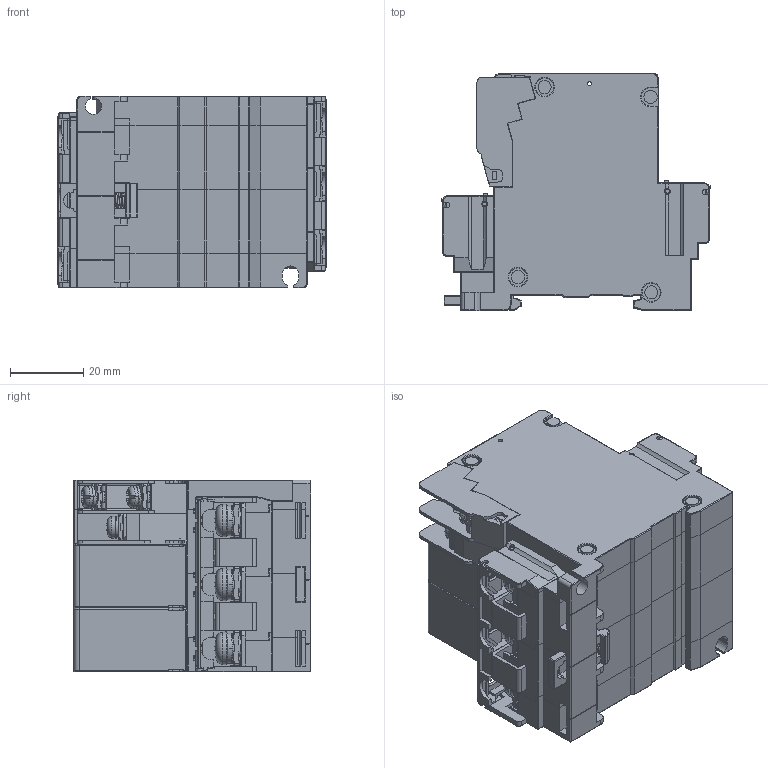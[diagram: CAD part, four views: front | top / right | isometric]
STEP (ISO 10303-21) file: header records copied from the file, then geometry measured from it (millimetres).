
FILE_DESCRIPTION (( 'STEP AP203' ), '1' );
FILE_NAME ('Total Ass''y(Aux Type)(3P).STEP', '2018-11-29T02:31:14', ( '' ), ( '' ), 'SwSTEP 2.0', 'SolidWorks 2015', '' );
FILE_SCHEMA (( 'CONFIG_CONTROL_DESIGN' ));
Length unit declared in the file: millimetre
Products named in the file (27): 餌陝 Washer(M3.5); Self Up Screw(M5)(CP30DN 7305); Aux Terminal(CP30DN5006); Line Terminal Ass''y(CP30DN4001); Self Up Screw(M3.5)(CP30DN 7303); Total Ass''y(Aux Type)(3P); Aux Body(CP30DN6013); Din Rail Ass''y(CP30DN 4005); Dust Cover(CP30DN6014); Din Rail Spring(CP30DN8001); Base(CP30DN6001); Wave Washer(M3.5); Aux Handle(3P)(CP30DN6009); Wave Washer(M5); Terminal Cover(3P)(CP30DN 6012); C-Base(CP30DN 6003); Load Terminal(CP30DN5005); Line Terminal(CP30DN5004); Handle(CP30DN6004); Pin(CP30DN7001); Cover(CP30DN6002); Base Rivet(3P)(CP30DN7604); PH Swrew(M3.5X8); PH Swrew(M5X10); 餌陝 Washer(M5); Aux Body Ass''y(CP30DN4007); Din Rail(CP30DN6006)
Assembly tree (48 placements, depth 4):
  Total Ass''y(Aux Type)(3P)
    Base(CP30DN6001)
    Cover(CP30DN6002)
    Pin(CP30DN7001)  x2
    Handle(CP30DN6004)  x3
    Line Terminal Ass''y(CP30DN4001)  x3
      Line Terminal(CP30DN5004)
    Load Terminal(CP30DN5005)  x3
    Self Up Screw(M5)(CP30DN 7305)  x6
      PH Swrew(M5X10)
      餌陝 Washer(M5)
      Wave Washer(M5)
    Dust Cover(CP30DN6014)  x2
    C-Base(CP30DN 6003)  x2
    Aux Body Ass''y(CP30DN4007)
      Aux Body(CP30DN6013)
      Aux Terminal(CP30DN5006)  x3
      Self Up Screw(M3.5)(CP30DN 7303)  x3
        PH Swrew(M3.5X8)
        餌陝 Washer(M3.5)
        Wave Washer(M3.5)
    Terminal Cover(3P)(CP30DN 6012)  x2
    Aux Handle(3P)(CP30DN6009)
    Base Rivet(3P)(CP30DN7604)  x4
    Din Rail Ass''y(CP30DN 4005)
      Din Rail(CP30DN6006)
      Din Rail Spring(CP30DN8001)
Bounding box: 73.4 x 65.05 x 52.5 mm (x, y, z)
Volume: 63683.1 mm3; surface area: 98474.3 mm2
Topology: 57 solids, 59 shells, 6655 faces, 18370 edges, 11765 vertices
Faces by surface type: plane 4348, cylinder 1638, torus 246, sphere 164, cone 161, bspline 98
Entity records: 126644 total; most frequent: CARTESIAN_POINT 27541, ORIENTED_EDGE 20514, DIRECTION 19418, EDGE_CURVE 10257, LINE 7714, VECTOR 7714, VERTEX_POINT 6567, AXIS2_PLACEMENT_3D 5852
